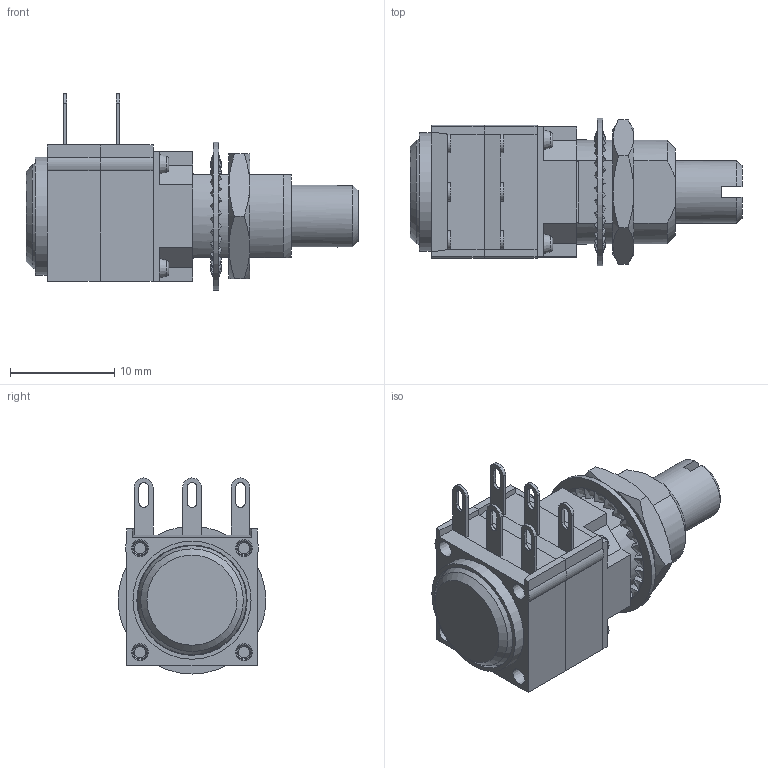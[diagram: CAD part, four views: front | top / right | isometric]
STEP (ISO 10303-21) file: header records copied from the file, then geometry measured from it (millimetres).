
FILE_DESCRIPTION( ( 'Unknown' ), '1' );
FILE_NAME( 'I:/Dev_Pots_Trimmers/01-Plans_Cao/P11/Step/P11S2V0FGSY00103MA.stp', 'Unknown', ( 'Unknown' ), ( 'Unknown' ), 'PSStep 15.0.49', 'Unknown', ' ' );
FILE_SCHEMA( ( 'AUTOMOTIVE_DESIGN { 1 0 10303 214 1 1 1 1 }' ) );
Length unit declared in the file: millimetre
Products named in the file (16): M1-Y00-103-oa0; 3650993; bande à chas; M2-Y00-103-oa1; Assem1; 3653420; 3653020; 3650540; 0685710; 3653200
Assembly tree (15 placements, depth 3):
  Assem1
    3653420
    3653020
    3650540
    0685710
    3653200
    M1-Y00-103-oa0
      3650993
      bande à chas
      bande à chas
      bande à chas
    M2-Y00-103-oa1
      3650993
      bande à chas
      bande à chas
      bande à chas
Bounding box: 31.91 x 14.2 x 18.85 mm (x, y, z)
Volume: 2255.8 mm3; surface area: 4300.2 mm2
Topology: 13 solids, 13 shells, 895 faces, 2465 edges, 1628 vertices
Faces by surface type: plane 471, cylinder 225, bspline 120, cone 69, torus 10
Full cylindrical faces by diameter (mm): 0.996 x4, 1.3 x12, 1.5 x14, 1.55 x4, 3.4 x1, 3.97 x1, 4 x1, 4.1 x2, 5.25 x2, 5.6 x1, 6 x2, 6.4 x1, 7.42 x1, 7.44 x2, 8.4 x1, 9.188 x1, 9.65 x1, 10.6 x2, 11.35 x2, 14.2 x1
Entity records: 38103 total; most frequent: CARTESIAN_POINT 9327, ORIENTED_EDGE 4608, DIRECTION 3979, EDGE_CURVE 2304, VERTEX_POINT 1575, AXIS2_PLACEMENT_3D 1359, LINE 1261, VECTOR 1261
